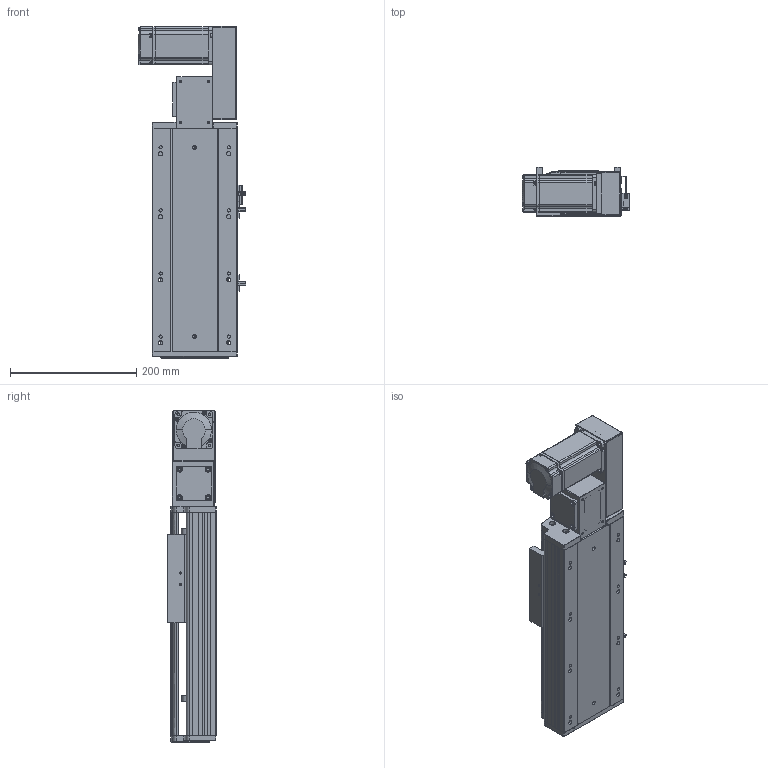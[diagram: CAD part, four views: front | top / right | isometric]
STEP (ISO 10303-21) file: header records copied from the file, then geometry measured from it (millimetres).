
FILE_DESCRIPTION (( 'STEP AP203' ), '1' );
FILE_NAME ('RY140-T-300-RK.SLDASM_100.step', '2021-03-01T06:44:38', ( '盈信电脑' ), ( '东莞市道滘镇水果街19号' ), 'SwSTEP 2.0', 'SolidWorks 2012', '' );
FILE_SCHEMA (( 'CONFIG_CONTROL_DESIGN' ));
Products named in the file (17): RY140-T-300-RK.SLDASM_100; RY120-T主同步轮轴承压盖; 15; RY120-T蹟翐M4; 滅袉蝶18-10; RY140-T萇儂假蚾啣; RY140-T萇儂欶; RY140-T翋肮謫裔啣; RY140-T翋肮祭謫盓傅釱; RY120-T肮祭湍揤踡輸2; RY120-T肮祭湍揤踡輸1; RY120外置感应片(140共用）; RY140肮祭謫臏賑輸; 覜茼ん672; RY140綴裔啣; RY140-T-300-DR倰第奻裔啣_100; RY140-T-300-DR倰第菁釱_100
Assembly tree (22 placements, depth 2):
  RY140-T-300-RK.SLDASM_100
    RY140-T-300-DR倰第菁釱_100
    RY140肮祭謫臏賑輸
    RY140-T-300-DR倰第奻裔啣_100
    RY140綴裔啣
    覜茼ん672  x3
    RY120外置感应片(140共用）
    RY120-T肮祭湍揤踡輸2
    RY120-T肮祭湍揤踡輸1
    RY140-T翋肮祭謫盓傅釱
    滅袉蝶18-10  x2
    RY140-T翋肮謫裔啣
    RY140-T萇儂欶
    RY140-T萇儂假蚾啣
    RY120-T蹟翐M4  x4
    15
    RY120-T主同步轮轴承压盖
Bounding box: 170.7 x 78 x 526.5 mm (x, y, z)
Volume: 1843910.8 mm3; surface area: 645303.8 mm2
Topology: 22 solids, 22 shells, 2499 faces, 6809 edges, 4406 vertices
Faces by surface type: plane 1385, cylinder 856, cone 158, bspline 100
Entity records: 78822 total; most frequent: CARTESIAN_POINT 19341, ORIENTED_EDGE 12226, DIRECTION 11557, EDGE_CURVE 6113, LINE 4017, VECTOR 4017, VERTEX_POINT 4005, AXIS2_PLACEMENT_3D 3770
